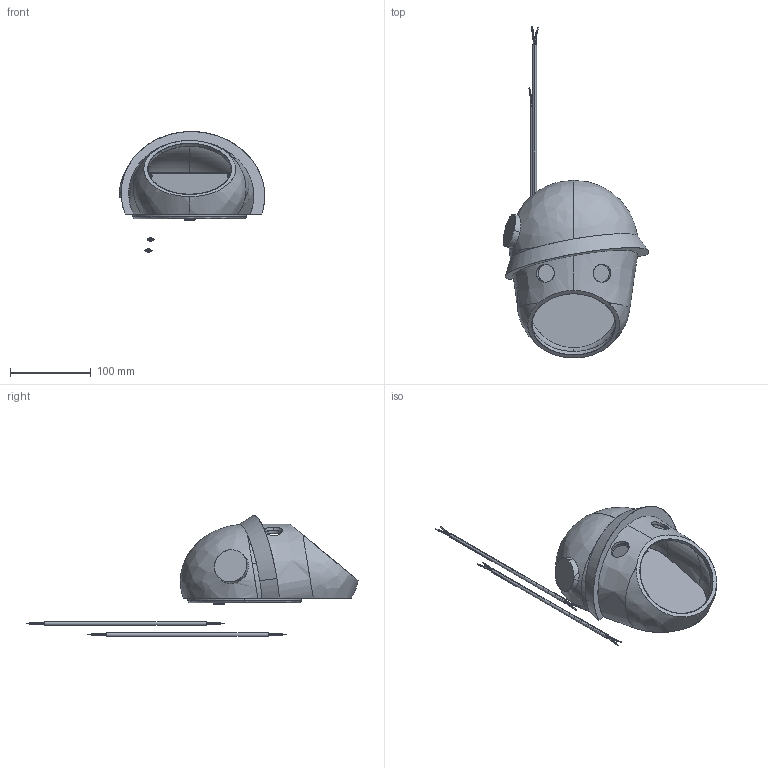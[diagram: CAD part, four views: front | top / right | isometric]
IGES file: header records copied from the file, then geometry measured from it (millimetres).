
Start section: SolidWorks IGES file using analytic representation for surfaces
Global section: file name: C:\Moooi\01_PRODUCTS\LI_Lighting Decorative\LI150 Orthenaartjes\11_Export\A000924_Creations_COCO_19-10-2018.igs; native system: SolidWorks 2017; preprocessor: SolidWorks 2017; author: Nataliajaskowska; date: 181019.092230; units: millimetre
Bounding box: 179.62 x 409.92 x 149.37 mm (x, y, z)
Surface area: 286952 mm2 (no closed solid volume)
Topology: 0 solids, 0 shells, 1759 faces, 20918 edges, 20895 vertices
Faces by surface type: bspline 1132, revolution 627
